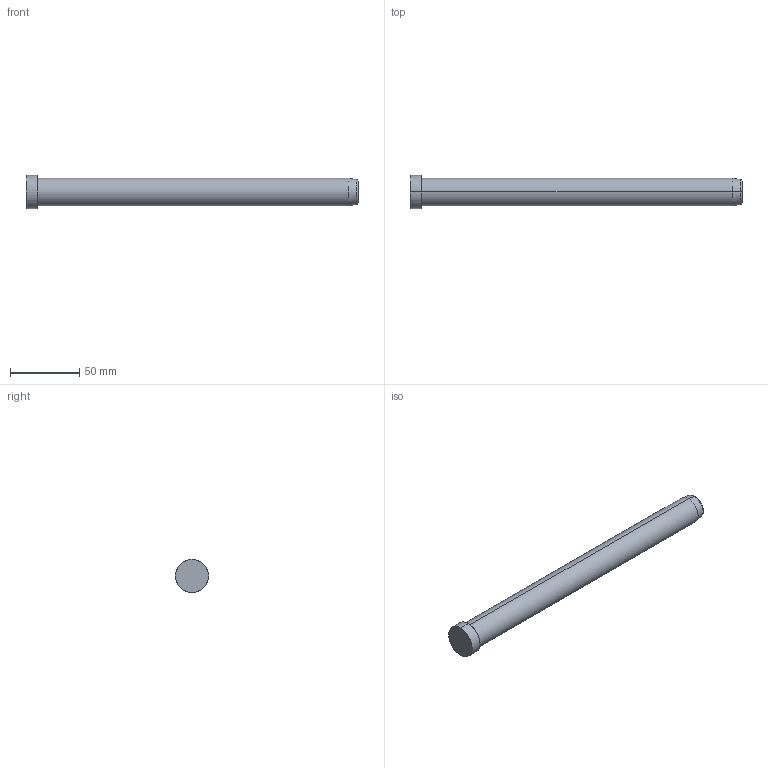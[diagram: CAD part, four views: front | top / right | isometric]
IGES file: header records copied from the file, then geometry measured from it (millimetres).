
Start section: SolidWorks IGES FILE using analytic representation for surfaces
Global section: file name: D:\zzzzz\Delta\D01 D\20\D01 D - 20x240.IGS; native system: SolidWorks 2004 by SolidWorks Corporation; preprocessor: Version 5.3; author: Hkn; date: 080326.194410; units: millimetre
Bounding box: 240 x 24 x 24 mm (x, y, z)
Surface area: 16005.8 mm2 (no closed solid volume)
Topology: 0 solids, 0 shells, 14 faces, 232 edges, 232 vertices
Faces by surface type: revolution 8, bspline 6
